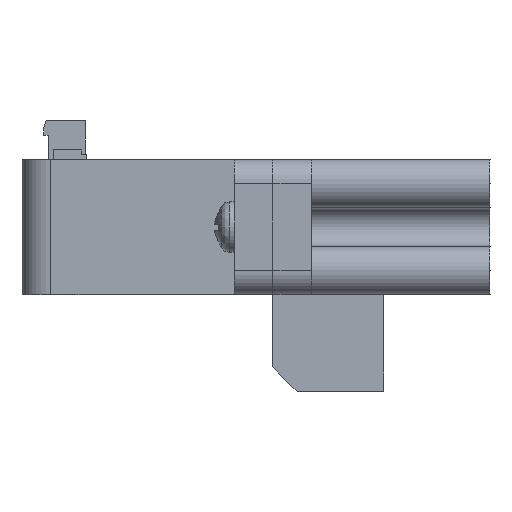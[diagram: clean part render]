
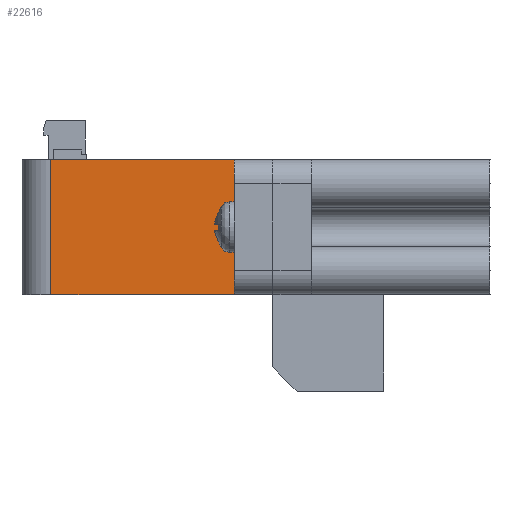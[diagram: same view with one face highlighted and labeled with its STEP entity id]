
A CAD part, left-side view. The second image highlights one B-rep face of the part: STEP entity #22616.
In plain terms, the highlighted planar face has unit normal (-1, 0, 0).
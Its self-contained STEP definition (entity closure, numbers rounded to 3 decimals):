
#17730 = PLANE('',#17731);
#17731 = AXIS2_PLACEMENT_3D('',#17732,#17733,#17734);
#17732 = CARTESIAN_POINT('',(0.,111.,
    0.));
#17733 = DIRECTION('',(0.,0.,1.));
#17734 = DIRECTION('',(1.,0.,0.));
#19024 = VERTEX_POINT('',#19025);
#19025 = CARTESIAN_POINT('',(-94.,46.,0.));
#19040 = CYLINDRICAL_SURFACE('',#19041,6.);
#19041 = AXIS2_PLACEMENT_3D('',#19042,#19043,#19044);
#19042 = CARTESIAN_POINT('',(-88.,46.,
    -28.));
#19043 = DIRECTION('',(0.,0.,1.));
#19044 = DIRECTION('',(-1.,0.,0.));
#19052 = EDGE_CURVE('',#19024,#19053,#19055,.T.);
#19053 = VERTEX_POINT('',#19054);
#19054 = CARTESIAN_POINT('',(-94.,8.,0.));
#19055 = SURFACE_CURVE('',#19056,(#19060,#19067),.PCURVE_S1.);
#19056 = LINE('',#19057,#19058);
#19057 = CARTESIAN_POINT('',(-94.,46.,0.));
#19058 = VECTOR('',#19059,1.);
#19059 = DIRECTION('',(0.,-1.,0.));
#19060 = PCURVE('',#17730,#19061);
#19061 = DEFINITIONAL_REPRESENTATION('',(#19062),#19066);
#19062 = LINE('',#19063,#19064);
#19063 = CARTESIAN_POINT('',(-94.,-65.));
#19064 = VECTOR('',#19065,1.);
#19065 = DIRECTION('',(0.,-1.));
#19066 = ( GEOMETRIC_REPRESENTATION_CONTEXT(2) 
PARAMETRIC_REPRESENTATION_CONTEXT() REPRESENTATION_CONTEXT('2D SPACE',''
  ) );
#19067 = PCURVE('',#19068,#19073);
#19068 = PLANE('',#19069);
#19069 = AXIS2_PLACEMENT_3D('',#19070,#19071,#19072);
#19070 = CARTESIAN_POINT('',(-94.,27.,
    -14.));
#19071 = DIRECTION('',(-1.,0.,0.));
#19072 = DIRECTION('',(0.,0.,1.));
#19073 = DEFINITIONAL_REPRESENTATION('',(#19074),#19078);
#19074 = LINE('',#19075,#19076);
#19075 = CARTESIAN_POINT('',(14.,19.));
#19076 = VECTOR('',#19077,1.);
#19077 = DIRECTION('',(0.,-1.));
#19078 = ( GEOMETRIC_REPRESENTATION_CONTEXT(2) 
PARAMETRIC_REPRESENTATION_CONTEXT() REPRESENTATION_CONTEXT('2D SPACE',''
  ) );
#19096 = PLANE('',#19097);
#19097 = AXIS2_PLACEMENT_3D('',#19098,#19099,#19100);
#19098 = CARTESIAN_POINT('',(-102.5,8.,-14.));
#19099 = DIRECTION('',(0.,1.,0.));
#19100 = DIRECTION('',(0.,0.,1.));
#22292 = PLANE('',#22293);
#22293 = AXIS2_PLACEMENT_3D('',#22294,#22295,#22296);
#22294 = CARTESIAN_POINT('',(0.,111.,
    -28.));
#22295 = DIRECTION('',(0.,0.,-1.));
#22296 = DIRECTION('',(1.,0.,0.));
#22567 = VERTEX_POINT('',#22568);
#22568 = CARTESIAN_POINT('',(-94.,46.,
    -28.));
#22594 = EDGE_CURVE('',#22567,#19024,#22595,.T.);
#22595 = SURFACE_CURVE('',#22596,(#22600,#22607),.PCURVE_S1.);
#22596 = LINE('',#22597,#22598);
#22597 = CARTESIAN_POINT('',(-94.,46.,
    -28.));
#22598 = VECTOR('',#22599,1.);
#22599 = DIRECTION('',(0.,0.,1.));
#22600 = PCURVE('',#19040,#22601);
#22601 = DEFINITIONAL_REPRESENTATION('',(#22602),#22606);
#22602 = LINE('',#22603,#22604);
#22603 = CARTESIAN_POINT('',(6.283,0.));
#22604 = VECTOR('',#22605,1.);
#22605 = DIRECTION('',(0.,1.));
#22606 = ( GEOMETRIC_REPRESENTATION_CONTEXT(2) 
PARAMETRIC_REPRESENTATION_CONTEXT() REPRESENTATION_CONTEXT('2D SPACE',''
  ) );
#22607 = PCURVE('',#19068,#22608);
#22608 = DEFINITIONAL_REPRESENTATION('',(#22609),#22613);
#22609 = LINE('',#22610,#22611);
#22610 = CARTESIAN_POINT('',(-14.,19.));
#22611 = VECTOR('',#22612,1.);
#22612 = DIRECTION('',(1.,0.));
#22613 = ( GEOMETRIC_REPRESENTATION_CONTEXT(2) 
PARAMETRIC_REPRESENTATION_CONTEXT() REPRESENTATION_CONTEXT('2D SPACE',''
  ) );
#22616 = ADVANCED_FACE('',(#22617),#19068,.T.);
#22617 = FACE_BOUND('',#22618,.T.);
#22618 = EDGE_LOOP('',(#22619,#22642,#22663,#22664));
#22619 = ORIENTED_EDGE('',*,*,#22620,.T.);
#22620 = EDGE_CURVE('',#22567,#22621,#22623,.T.);
#22621 = VERTEX_POINT('',#22622);
#22622 = CARTESIAN_POINT('',(-94.,8.,
    -28.));
#22623 = SURFACE_CURVE('',#22624,(#22628,#22635),.PCURVE_S1.);
#22624 = LINE('',#22625,#22626);
#22625 = CARTESIAN_POINT('',(-94.,46.,
    -28.));
#22626 = VECTOR('',#22627,1.);
#22627 = DIRECTION('',(0.,-1.,0.));
#22628 = PCURVE('',#19068,#22629);
#22629 = DEFINITIONAL_REPRESENTATION('',(#22630),#22634);
#22630 = LINE('',#22631,#22632);
#22631 = CARTESIAN_POINT('',(-14.,19.));
#22632 = VECTOR('',#22633,1.);
#22633 = DIRECTION('',(0.,-1.));
#22634 = ( GEOMETRIC_REPRESENTATION_CONTEXT(2) 
PARAMETRIC_REPRESENTATION_CONTEXT() REPRESENTATION_CONTEXT('2D SPACE',''
  ) );
#22635 = PCURVE('',#22292,#22636);
#22636 = DEFINITIONAL_REPRESENTATION('',(#22637),#22641);
#22637 = LINE('',#22638,#22639);
#22638 = CARTESIAN_POINT('',(-94.,65.));
#22639 = VECTOR('',#22640,1.);
#22640 = DIRECTION('',(0.,1.));
#22641 = ( GEOMETRIC_REPRESENTATION_CONTEXT(2) 
PARAMETRIC_REPRESENTATION_CONTEXT() REPRESENTATION_CONTEXT('2D SPACE',''
  ) );
#22642 = ORIENTED_EDGE('',*,*,#22643,.T.);
#22643 = EDGE_CURVE('',#22621,#19053,#22644,.T.);
#22644 = SURFACE_CURVE('',#22645,(#22649,#22656),.PCURVE_S1.);
#22645 = LINE('',#22646,#22647);
#22646 = CARTESIAN_POINT('',(-94.,8.,
    -28.));
#22647 = VECTOR('',#22648,1.);
#22648 = DIRECTION('',(0.,0.,1.));
#22649 = PCURVE('',#19068,#22650);
#22650 = DEFINITIONAL_REPRESENTATION('',(#22651),#22655);
#22651 = LINE('',#22652,#22653);
#22652 = CARTESIAN_POINT('',(-14.,-19.));
#22653 = VECTOR('',#22654,1.);
#22654 = DIRECTION('',(1.,0.));
#22655 = ( GEOMETRIC_REPRESENTATION_CONTEXT(2) 
PARAMETRIC_REPRESENTATION_CONTEXT() REPRESENTATION_CONTEXT('2D SPACE',''
  ) );
#22656 = PCURVE('',#19096,#22657);
#22657 = DEFINITIONAL_REPRESENTATION('',(#22658),#22662);
#22658 = LINE('',#22659,#22660);
#22659 = CARTESIAN_POINT('',(-14.,8.5));
#22660 = VECTOR('',#22661,1.);
#22661 = DIRECTION('',(1.,0.));
#22662 = ( GEOMETRIC_REPRESENTATION_CONTEXT(2) 
PARAMETRIC_REPRESENTATION_CONTEXT() REPRESENTATION_CONTEXT('2D SPACE',''
  ) );
#22663 = ORIENTED_EDGE('',*,*,#19052,.F.);
#22664 = ORIENTED_EDGE('',*,*,#22594,.F.);
